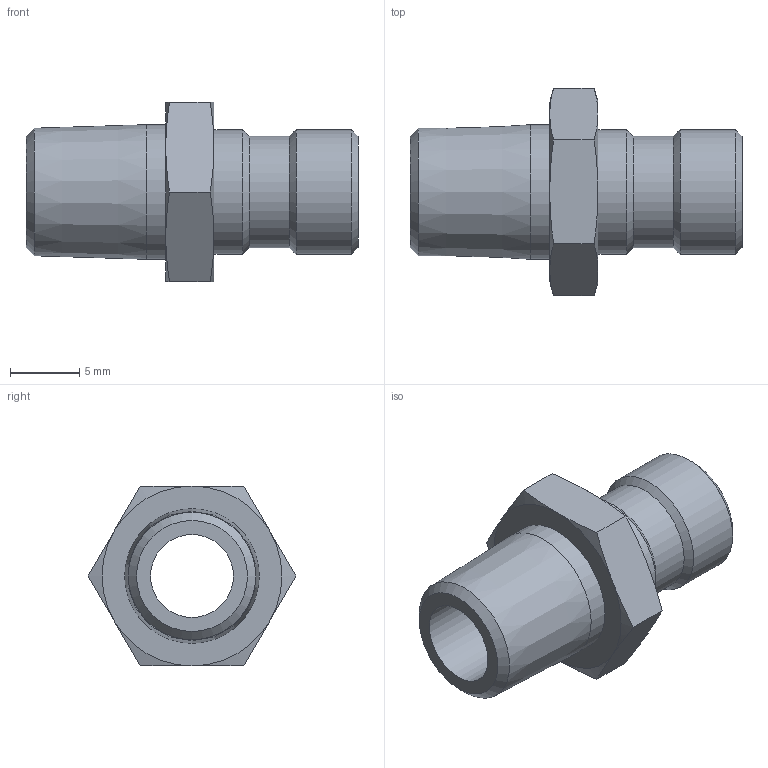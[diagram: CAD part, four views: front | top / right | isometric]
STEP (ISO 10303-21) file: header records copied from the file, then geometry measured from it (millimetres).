
FILE_DESCRIPTION(/* description */ ('STEP AP214'),/* implementation_level */ '2;1');
FILE_NAME(/* name */ 'N618A',/* time_stamp */ '2024-12-19T09:28:30+01:00',/* author */ ('License CC BY-ND 4.0'),/* organization */ ('CADENAS'),/* preprocessor_version */ 'ST-DEVELOPER v19.3',/* originating_system */ 'PARTsolutions',/* authorisation */ ' ');
FILE_SCHEMA (('AUTOMOTIVE_DESIGN {1 0 10303 214 3 1 1}'));
Length unit declared in the file: millimetre
Products named in the file (1): N618A
Bounding box: 24 x 15.01 x 13 mm (x, y, z)
Volume: 1155.2 mm3; surface area: 1407.9 mm2
Topology: 1 solids, 1 shells, 32 faces, 65 edges, 37 vertices
Faces by surface type: cone 17, plane 10, cylinder 5
Full cylindrical faces by diameter (mm): 6 x1, 8.04 x1, 9 x2, 9.728 x1
Entity records: 830 total; most frequent: CARTESIAN_POINT 197, DIRECTION 122, ORIENTED_EDGE 110, AXIS2_PLACEMENT_3D 58, EDGE_CURVE 55, EDGE_LOOP 46, FACE_BOUND 46, VERTEX_POINT 37
